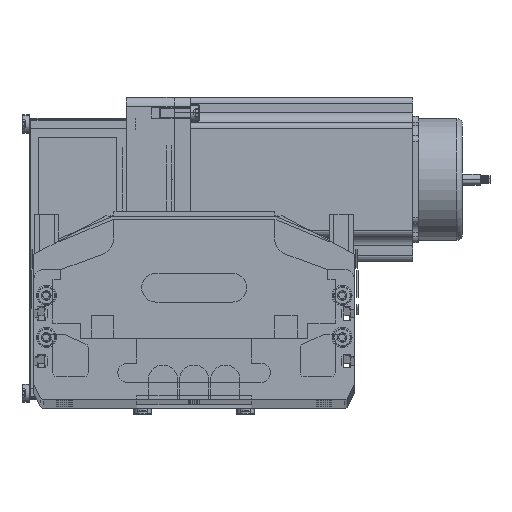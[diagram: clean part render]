
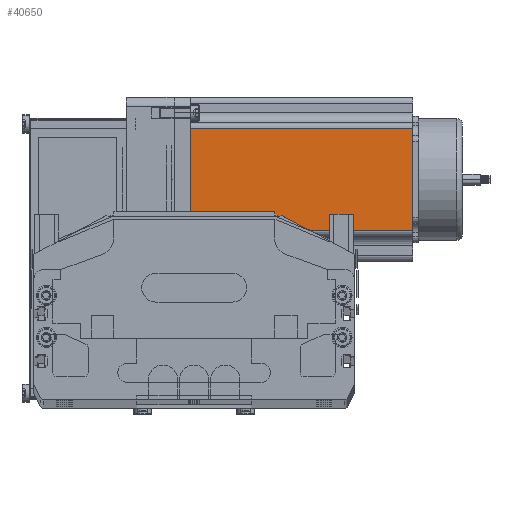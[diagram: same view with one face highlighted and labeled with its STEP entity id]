
A CAD part, top view. The second image highlights one B-rep face of the part: STEP entity #40650.
In plain terms, the highlighted planar face has unit normal (0, 0, 1) as drawn and (0, -1, 0) by its records, which use the part's own axes.
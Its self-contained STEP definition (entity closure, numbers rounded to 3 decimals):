
#1850 = DIRECTION ( 'NONE',  ( 0., 0., -1. ) ) ;
#1851 = VECTOR ( 'NONE', #1850, 1000. ) ;
#1883 = CARTESIAN_POINT ( 'NONE',  ( 16.16, 0., 116.5 ) ) ;
#1884 = LINE ( 'NONE', #1883, #1851 ) ;
#2021 = FACE_OUTER_BOUND ( 'NONE', #40817, .T. ) ;
#2024 = AXIS2_PLACEMENT_3D ( 'NONE', #2028, #2027, #2125 ) ;
#2027 = DIRECTION ( 'NONE',  ( 0., 1., 0. ) ) ;
#2028 = CARTESIAN_POINT ( 'NONE',  ( 0., 0., 116.5 ) ) ;
#2034 = PLANE ( 'NONE',  #2024 ) ;
#2119 = DIRECTION ( 'NONE',  ( 0., 0., 1. ) ) ;
#2120 = VECTOR ( 'NONE', #2119, 1000. ) ;
#2121 = CARTESIAN_POINT ( 'NONE',  ( 69.74, 0., 116.5 ) ) ;
#2125 = DIRECTION ( 'NONE',  ( 0., 0., 1. ) ) ;
#2126 = LINE ( 'NONE', #2121, #2120 ) ;
#2521 = CARTESIAN_POINT ( 'NONE',  ( 69.74, 0., 0. ) ) ;
#2525 = CARTESIAN_POINT ( 'NONE',  ( 16.16, 0., 0. ) ) ;
#2590 = DIRECTION ( 'NONE',  ( 1., 0., 0. ) ) ;
#2591 = VECTOR ( 'NONE', #2590, 1000. ) ;
#2592 = CARTESIAN_POINT ( 'NONE',  ( 0., 0., 0. ) ) ;
#2593 = LINE ( 'NONE', #2592, #2591 ) ;
#2594 = CARTESIAN_POINT ( 'NONE',  ( 16.16, 0., 116.5 ) ) ;
#2605 = LINE ( 'NONE', #2632, #2617 ) ;
#2617 = VECTOR ( 'NONE', #2658, 1000. ) ;
#2632 = CARTESIAN_POINT ( 'NONE',  ( 0., 0., 116.5 ) ) ;
#2643 = CARTESIAN_POINT ( 'NONE',  ( 69.74, 0., 116.5 ) ) ;
#2658 = DIRECTION ( 'NONE',  ( 1., 0., 0. ) ) ;
#40532 = ORIENTED_EDGE ( 'NONE', *, *, #40534, .T. ) ;
#40533 = ORIENTED_EDGE ( 'NONE', *, *, #40797, .F. ) ;
#40534 = EDGE_CURVE ( 'NONE', #40823, #40786, #1884, .T. ) ;
#40650 = ADVANCED_FACE ( 'NONE', ( #2021 ), #2034, .F. ) ;
#40651 = ORIENTED_EDGE ( 'NONE', *, *, #40652, .T. ) ;
#40652 = EDGE_CURVE ( 'NONE', #40792, #40822, #2126, .T. ) ;
#40695 = ORIENTED_EDGE ( 'NONE', *, *, #40821, .T. ) ;
#40786 = VERTEX_POINT ( 'NONE', #2525 ) ;
#40792 = VERTEX_POINT ( 'NONE', #2521 ) ;
#40797 = EDGE_CURVE ( 'NONE', #40823, #40822, #2605, .T. ) ;
#40817 = EDGE_LOOP ( 'NONE', ( #40695, #40651, #40533, #40532 ) ) ;
#40821 = EDGE_CURVE ( 'NONE', #40786, #40792, #2593, .T. ) ;
#40822 = VERTEX_POINT ( 'NONE', #2643 ) ;
#40823 = VERTEX_POINT ( 'NONE', #2594 ) ;
